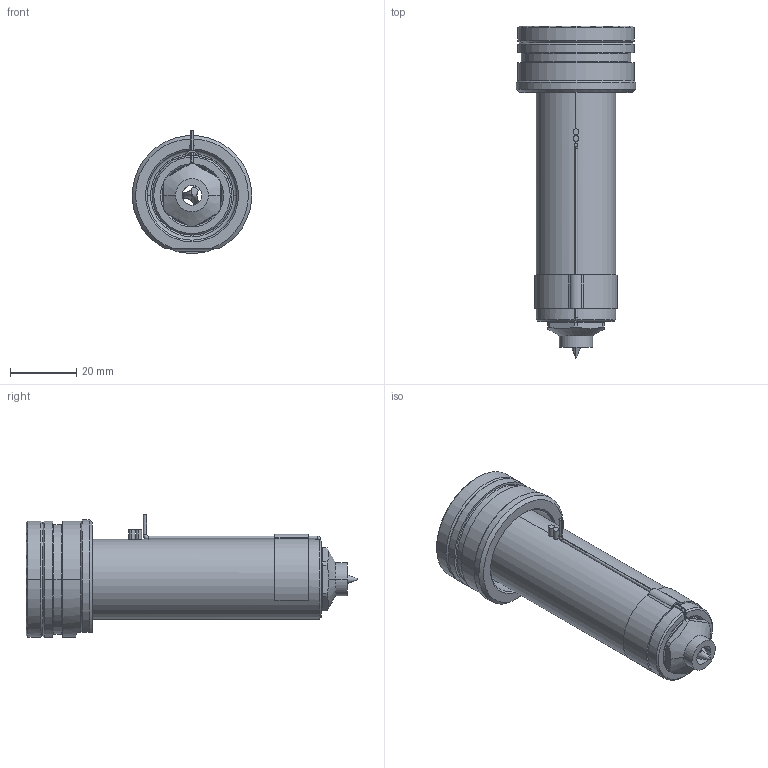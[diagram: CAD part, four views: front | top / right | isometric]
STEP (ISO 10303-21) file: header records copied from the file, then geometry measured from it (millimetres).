
FILE_DESCRIPTION((''),'2;1');
FILE_NAME('EO06_PG-BL_WR_080_SW','2024-02-19T11:03:14',('sundharh'),(''),'CREO PARAMETRIC BY PTC INC, 2023154','CREO PARAMETRIC BY PTC INC, 2023154','');
FILE_SCHEMA(('CONFIG_CONTROL_DESIGN'));
Length unit declared in the file: millimetre
Products named in the file (1): EO06_PG-BL_WR_080_SW
Bounding box: 35.93 x 100 x 37 mm (x, y, z)
Volume: 47406.5 mm3; surface area: 15056.7 mm2
Topology: 2 solids, 2 shells, 205 faces, 552 edges, 340 vertices
Faces by surface type: cylinder 83, plane 55, cone 38, torus 21, bspline 6, sphere 2
Entity records: 7404 total; most frequent: CARTESIAN_POINT 2167, DIRECTION 1153, ORIENTED_EDGE 1092, EDGE_CURVE 546, AXIS2_PLACEMENT_3D 485, VERTEX_POINT 340, CIRCLE 286, EDGE_LOOP 220
